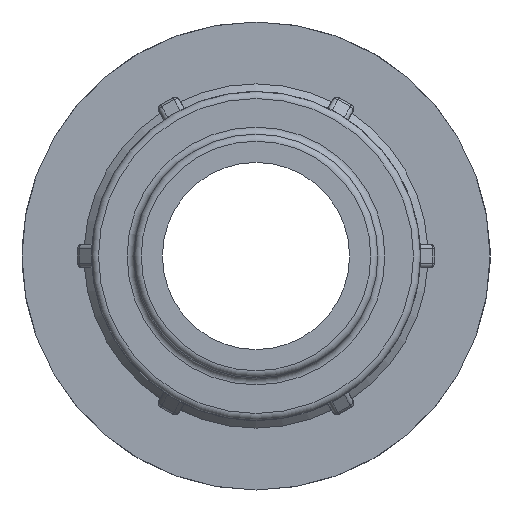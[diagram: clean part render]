
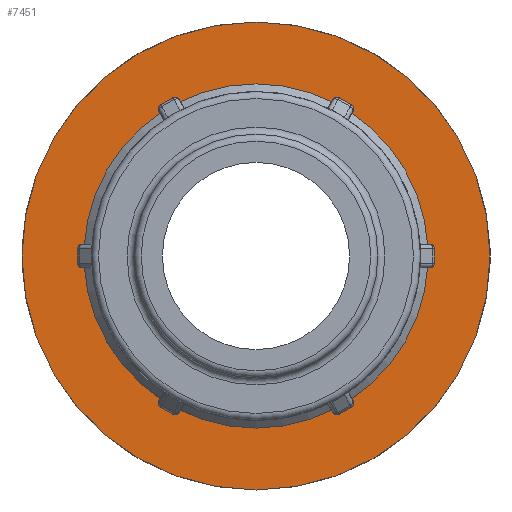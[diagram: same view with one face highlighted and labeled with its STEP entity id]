
A CAD part, left-side view. The second image highlights one B-rep face of the part: STEP entity #7451.
In plain terms, the highlighted planar face has unit normal (-1, 0, 0).
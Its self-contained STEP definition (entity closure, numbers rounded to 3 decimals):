
#35=FACE_BOUND('',#1399,.T.);
#110=ELLIPSE('',#7532,0.453,0.32);
#111=ELLIPSE('',#7553,0.453,0.32);
#115=ELLIPSE('',#7649,0.453,0.32);
#116=ELLIPSE('',#7670,0.453,0.32);
#120=ELLIPSE('',#7766,0.453,0.32);
#121=ELLIPSE('',#7787,0.453,0.32);
#125=ELLIPSE('',#7883,0.453,0.32);
#126=ELLIPSE('',#7904,0.453,0.32);
#130=ELLIPSE('',#8000,0.453,0.32);
#131=ELLIPSE('',#8021,0.453,0.32);
#136=ELLIPSE('',#8284,0.453,0.32);
#137=ELLIPSE('',#8305,0.453,0.32);
#290=PLANE('',#8370);
#922=FACE_OUTER_BOUND('',#1398,.T.);
#1398=EDGE_LOOP('',(#6740));
#1399=EDGE_LOOP('',(#6741,#6742,#6743,#6744,#6745,#6746,#6747,#6748,#6749,
#6750,#6751,#6752,#6753,#6754,#6755,#6756,#6757,#6758,#6759,#6760,#6761,
#6762,#6763,#6764));
#1451=LINE('',#10984,#1901);
#1510=LINE('',#11441,#1960);
#1569=LINE('',#11900,#2019);
#1628=LINE('',#12357,#2078);
#1687=LINE('',#12814,#2137);
#1834=LINE('',#14141,#2284);
#1901=VECTOR('',#8565,0.96);
#1960=VECTOR('',#8858,0.96);
#2019=VECTOR('',#9151,0.96);
#2078=VECTOR('',#9444,0.96);
#2137=VECTOR('',#9737,0.96);
#2284=VECTOR('',#10452,0.96);
#2726=CIRCLE('',#8210,11.767);
#2727=CIRCLE('',#8212,11.767);
#2728=CIRCLE('',#8214,11.767);
#2729=CIRCLE('',#8216,11.767);
#2730=CIRCLE('',#8218,11.767);
#2812=CIRCLE('',#8371,16.);
#2813=CIRCLE('',#8372,11.767);
#2875=VERTEX_POINT('',#10964);
#2876=VERTEX_POINT('',#10976);
#2878=VERTEX_POINT('',#10982);
#2891=VERTEX_POINT('',#11039);
#2962=VERTEX_POINT('',#11421);
#2963=VERTEX_POINT('',#11433);
#2965=VERTEX_POINT('',#11439);
#2978=VERTEX_POINT('',#11496);
#3049=VERTEX_POINT('',#11880);
#3050=VERTEX_POINT('',#11892);
#3052=VERTEX_POINT('',#11898);
#3065=VERTEX_POINT('',#11955);
#3136=VERTEX_POINT('',#12337);
#3137=VERTEX_POINT('',#12349);
#3139=VERTEX_POINT('',#12355);
#3152=VERTEX_POINT('',#12412);
#3223=VERTEX_POINT('',#12794);
#3224=VERTEX_POINT('',#12806);
#3226=VERTEX_POINT('',#12812);
#3239=VERTEX_POINT('',#12869);
#3394=VERTEX_POINT('',#13885);
#3441=VERTEX_POINT('',#14121);
#3442=VERTEX_POINT('',#14133);
#3444=VERTEX_POINT('',#14139);
#3480=VERTEX_POINT('',#14333);
#3568=EDGE_CURVE('',#2876,#2875,#110,.F.);
#3571=EDGE_CURVE('',#2876,#2878,#1451,.T.);
#3596=EDGE_CURVE('',#2878,#2891,#111,.T.);
#3708=EDGE_CURVE('',#2963,#2962,#115,.F.);
#3711=EDGE_CURVE('',#2963,#2965,#1510,.T.);
#3736=EDGE_CURVE('',#2965,#2978,#116,.T.);
#3848=EDGE_CURVE('',#3050,#3049,#120,.F.);
#3851=EDGE_CURVE('',#3050,#3052,#1569,.T.);
#3876=EDGE_CURVE('',#3052,#3065,#121,.T.);
#3988=EDGE_CURVE('',#3137,#3136,#125,.F.);
#3991=EDGE_CURVE('',#3137,#3139,#1628,.T.);
#4016=EDGE_CURVE('',#3139,#3152,#126,.T.);
#4128=EDGE_CURVE('',#3224,#3223,#130,.F.);
#4131=EDGE_CURVE('',#3224,#3226,#1687,.T.);
#4156=EDGE_CURVE('',#3226,#3239,#131,.T.);
#4426=EDGE_CURVE('',#3223,#3394,#2726,.F.);
#4429=EDGE_CURVE('',#3239,#3136,#2727,.T.);
#4430=EDGE_CURVE('',#3152,#3049,#2728,.T.);
#4431=EDGE_CURVE('',#3065,#2962,#2729,.T.);
#4432=EDGE_CURVE('',#2978,#2875,#2730,.T.);
#4510=EDGE_CURVE('',#3442,#3441,#136,.F.);
#4513=EDGE_CURVE('',#3442,#3444,#1834,.T.);
#4537=EDGE_CURVE('',#3444,#3394,#137,.T.);
#4586=EDGE_CURVE('',#3480,#3480,#2812,.T.);
#4587=EDGE_CURVE('',#2891,#3441,#2813,.T.);
#6740=ORIENTED_EDGE('',*,*,#4586,.F.);
#6741=ORIENTED_EDGE('',*,*,#4587,.T.);
#6742=ORIENTED_EDGE('',*,*,#4510,.F.);
#6743=ORIENTED_EDGE('',*,*,#4513,.T.);
#6744=ORIENTED_EDGE('',*,*,#4537,.T.);
#6745=ORIENTED_EDGE('',*,*,#4426,.F.);
#6746=ORIENTED_EDGE('',*,*,#4128,.F.);
#6747=ORIENTED_EDGE('',*,*,#4131,.T.);
#6748=ORIENTED_EDGE('',*,*,#4156,.T.);
#6749=ORIENTED_EDGE('',*,*,#4429,.T.);
#6750=ORIENTED_EDGE('',*,*,#3988,.F.);
#6751=ORIENTED_EDGE('',*,*,#3991,.T.);
#6752=ORIENTED_EDGE('',*,*,#4016,.T.);
#6753=ORIENTED_EDGE('',*,*,#4430,.T.);
#6754=ORIENTED_EDGE('',*,*,#3848,.F.);
#6755=ORIENTED_EDGE('',*,*,#3851,.T.);
#6756=ORIENTED_EDGE('',*,*,#3876,.T.);
#6757=ORIENTED_EDGE('',*,*,#4431,.T.);
#6758=ORIENTED_EDGE('',*,*,#3708,.F.);
#6759=ORIENTED_EDGE('',*,*,#3711,.T.);
#6760=ORIENTED_EDGE('',*,*,#3736,.T.);
#6761=ORIENTED_EDGE('',*,*,#4432,.T.);
#6762=ORIENTED_EDGE('',*,*,#3568,.F.);
#6763=ORIENTED_EDGE('',*,*,#3571,.T.);
#6764=ORIENTED_EDGE('',*,*,#3596,.T.);
#7451=ADVANCED_FACE('',(#922,#35),#290,.T.);
#7532=AXIS2_PLACEMENT_3D('',#10978,#8559,#8560);
#7553=AXIS2_PLACEMENT_3D('',#11040,#8621,#8622);
#7649=AXIS2_PLACEMENT_3D('',#11435,#8852,#8853);
#7670=AXIS2_PLACEMENT_3D('',#11497,#8914,#8915);
#7766=AXIS2_PLACEMENT_3D('',#11894,#9145,#9146);
#7787=AXIS2_PLACEMENT_3D('',#11956,#9207,#9208);
#7883=AXIS2_PLACEMENT_3D('',#12351,#9438,#9439);
#7904=AXIS2_PLACEMENT_3D('',#12413,#9500,#9501);
#8000=AXIS2_PLACEMENT_3D('',#12808,#9731,#9732);
#8021=AXIS2_PLACEMENT_3D('',#12870,#9793,#9794);
#8210=AXIS2_PLACEMENT_3D('',#13886,#10266,#10267);
#8212=AXIS2_PLACEMENT_3D('',#13902,#10270,#10271);
#8214=AXIS2_PLACEMENT_3D('',#13904,#10274,#10275);
#8216=AXIS2_PLACEMENT_3D('',#13906,#10278,#10279);
#8218=AXIS2_PLACEMENT_3D('',#13908,#10282,#10283);
#8284=AXIS2_PLACEMENT_3D('',#14135,#10446,#10447);
#8305=AXIS2_PLACEMENT_3D('',#14189,#10508,#10509);
#8370=AXIS2_PLACEMENT_3D('',#14332,#10653,#10654);
#8371=AXIS2_PLACEMENT_3D('',#14334,#10655,#10656);
#8372=AXIS2_PLACEMENT_3D('',#14335,#10657,#10658);
#8559=DIRECTION('center_axis',(1.,0.,0.));
#8560=DIRECTION('ref_axis',(0.,0.5,-0.866));
#8565=DIRECTION('',(0.,0.866,0.5));
#8621=DIRECTION('center_axis',(1.,0.,0.));
#8622=DIRECTION('ref_axis',(0.,0.5,-0.866));
#8852=DIRECTION('center_axis',(1.,0.,0.));
#8853=DIRECTION('ref_axis',(0.,-0.5,-0.866));
#8858=DIRECTION('',(0.,0.866,-0.5));
#8914=DIRECTION('center_axis',(1.,0.,0.));
#8915=DIRECTION('ref_axis',(0.,-0.5,-0.866));
#9145=DIRECTION('center_axis',(1.,0.,0.));
#9146=DIRECTION('ref_axis',(0.,-1.,0.));
#9151=DIRECTION('',(0.,0.,-1.));
#9207=DIRECTION('center_axis',(1.,0.,0.));
#9208=DIRECTION('ref_axis',(0.,-1.,0.));
#9438=DIRECTION('center_axis',(1.,0.,0.));
#9439=DIRECTION('ref_axis',(0.,-0.5,0.866));
#9444=DIRECTION('',(0.,-0.866,-0.5));
#9500=DIRECTION('center_axis',(1.,0.,0.));
#9501=DIRECTION('ref_axis',(0.,-0.5,0.866));
#9731=DIRECTION('center_axis',(1.,0.,0.));
#9732=DIRECTION('ref_axis',(0.,0.5,0.866));
#9737=DIRECTION('',(0.,-0.866,0.5));
#9793=DIRECTION('center_axis',(1.,0.,0.));
#9794=DIRECTION('ref_axis',(0.,0.5,0.866));
#10266=DIRECTION('center_axis',(1.,0.,0.));
#10267=DIRECTION('ref_axis',(0.,1.,0.));
#10270=DIRECTION('center_axis',(1.,0.,0.));
#10271=DIRECTION('ref_axis',(0.,1.,0.));
#10274=DIRECTION('center_axis',(1.,0.,0.));
#10275=DIRECTION('ref_axis',(0.,1.,0.));
#10278=DIRECTION('center_axis',(1.,0.,0.));
#10279=DIRECTION('ref_axis',(0.,1.,0.));
#10282=DIRECTION('center_axis',(1.,0.,0.));
#10283=DIRECTION('ref_axis',(0.,1.,0.));
#10446=DIRECTION('center_axis',(1.,0.,0.));
#10447=DIRECTION('ref_axis',(0.,1.,0.));
#10452=DIRECTION('',(0.,0.,1.));
#10508=DIRECTION('center_axis',(1.,0.,0.));
#10509=DIRECTION('ref_axis',(0.,1.,0.));
#10653=DIRECTION('center_axis',(-1.,0.,0.));
#10654=DIRECTION('ref_axis',(0.,0.,1.));
#10655=DIRECTION('center_axis',(1.,0.,0.));
#10656=DIRECTION('ref_axis',(0.,0.,-1.));
#10657=DIRECTION('center_axis',(1.,0.,0.));
#10658=DIRECTION('ref_axis',(0.,1.,0.));
#10964=CARTESIAN_POINT('',(19.11,5.395,-10.458));
#10976=CARTESIAN_POINT('',(19.11,5.468,-10.431));
#10978=CARTESIAN_POINT('Origin',(19.11,5.242,-10.039));
#10982=CARTESIAN_POINT('',(19.11,6.299,-9.951));
#10984=CARTESIAN_POINT('',(19.11,11.884,-6.727));
#11039=CARTESIAN_POINT('',(19.11,6.359,-9.901));
#11040=CARTESIAN_POINT('Origin',(19.11,6.073,-9.559));
#11421=CARTESIAN_POINT('',(19.11,-6.359,-9.901));
#11433=CARTESIAN_POINT('',(19.11,-6.299,-9.951));
#11435=CARTESIAN_POINT('Origin',(19.11,-6.073,-9.559));
#11439=CARTESIAN_POINT('',(19.11,-5.468,-10.431));
#11441=CARTESIAN_POINT('',(19.11,0.116,-13.655));
#11496=CARTESIAN_POINT('',(19.11,-5.395,-10.458));
#11497=CARTESIAN_POINT('Origin',(19.11,-5.242,-10.039));
#11880=CARTESIAN_POINT('',(19.11,-11.754,0.557));
#11892=CARTESIAN_POINT('',(19.11,-11.767,0.48));
#11894=CARTESIAN_POINT('Origin',(19.11,-11.315,0.48));
#11898=CARTESIAN_POINT('',(19.11,-11.767,-0.48));
#11900=CARTESIAN_POINT('',(19.11,-11.767,0.));
#11955=CARTESIAN_POINT('',(19.11,-11.754,-0.557));
#11956=CARTESIAN_POINT('Origin',(19.11,-11.315,-0.48));
#12337=CARTESIAN_POINT('',(19.11,-5.395,10.458));
#12349=CARTESIAN_POINT('',(19.11,-5.468,10.431));
#12351=CARTESIAN_POINT('Origin',(19.11,-5.242,10.039));
#12355=CARTESIAN_POINT('',(19.11,-6.299,9.951));
#12357=CARTESIAN_POINT('',(19.11,0.116,13.655));
#12412=CARTESIAN_POINT('',(19.11,-6.359,9.901));
#12413=CARTESIAN_POINT('Origin',(19.11,-6.073,9.559));
#12794=CARTESIAN_POINT('',(19.11,6.359,9.901));
#12806=CARTESIAN_POINT('',(19.11,6.299,9.951));
#12808=CARTESIAN_POINT('Origin',(19.11,6.073,9.559));
#12812=CARTESIAN_POINT('',(19.11,5.468,10.431));
#12814=CARTESIAN_POINT('',(19.11,11.884,6.727));
#12869=CARTESIAN_POINT('',(19.11,5.395,10.458));
#12870=CARTESIAN_POINT('Origin',(19.11,5.242,10.039));
#13885=CARTESIAN_POINT('',(19.11,11.754,0.557));
#13886=CARTESIAN_POINT('Origin',(19.11,0.,0.));
#13902=CARTESIAN_POINT('Origin',(19.11,0.,0.));
#13904=CARTESIAN_POINT('Origin',(19.11,0.,0.));
#13906=CARTESIAN_POINT('Origin',(19.11,0.,0.));
#13908=CARTESIAN_POINT('Origin',(19.11,0.,0.));
#14121=CARTESIAN_POINT('',(19.11,11.754,-0.557));
#14133=CARTESIAN_POINT('',(19.11,11.767,-0.48));
#14135=CARTESIAN_POINT('Origin',(19.11,11.315,-0.48));
#14139=CARTESIAN_POINT('',(19.11,11.767,0.48));
#14141=CARTESIAN_POINT('',(19.11,11.767,0.));
#14189=CARTESIAN_POINT('Origin',(19.11,11.315,0.48));
#14332=CARTESIAN_POINT('Origin',(19.11,16.,0.));
#14333=CARTESIAN_POINT('',(19.11,16.,0.));
#14334=CARTESIAN_POINT('Origin',(19.11,0.,0.));
#14335=CARTESIAN_POINT('Origin',(19.11,0.,0.));
